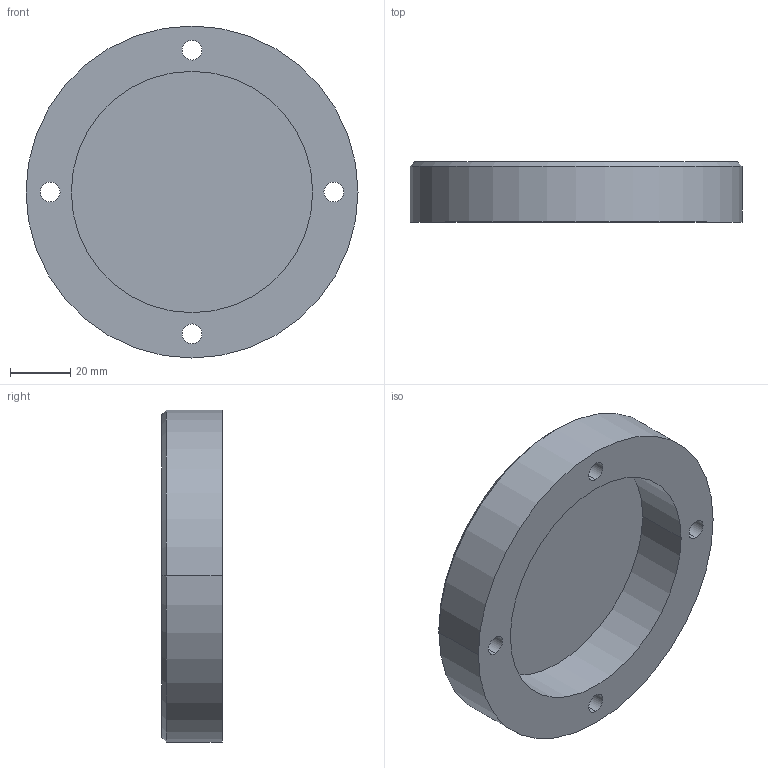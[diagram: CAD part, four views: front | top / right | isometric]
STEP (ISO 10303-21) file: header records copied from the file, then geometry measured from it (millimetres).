
FILE_DESCRIPTION (( 'STEP AP203' ), '1' );
FILE_NAME ('084.803.006.STEP', '2013-01-29T12:51:35', ( 'Alusic' ), ( 'Alusic' ), 'SwSTEP 2.0', 'SolidWorks 2011', '' );
FILE_SCHEMA (( 'CONFIG_CONTROL_DESIGN' ));
Length unit declared in the file: millimetre
Products named in the file (1): 084.803.006
Bounding box: 110 x 20 x 110 mm (x, y, z)
Volume: 95006.6 mm3; surface area: 31852.3 mm2
Topology: 1 solids, 1 shells, 29 faces, 64 edges, 42 vertices
Faces by surface type: cylinder 20, plane 7, cone 2
Entity records: 917 total; most frequent: DIRECTION 166, CARTESIAN_POINT 136, ORIENTED_EDGE 128, AXIS2_PLACEMENT_3D 72, EDGE_CURVE 64, EDGE_LOOP 42, VERTEX_POINT 42, CIRCLE 42
